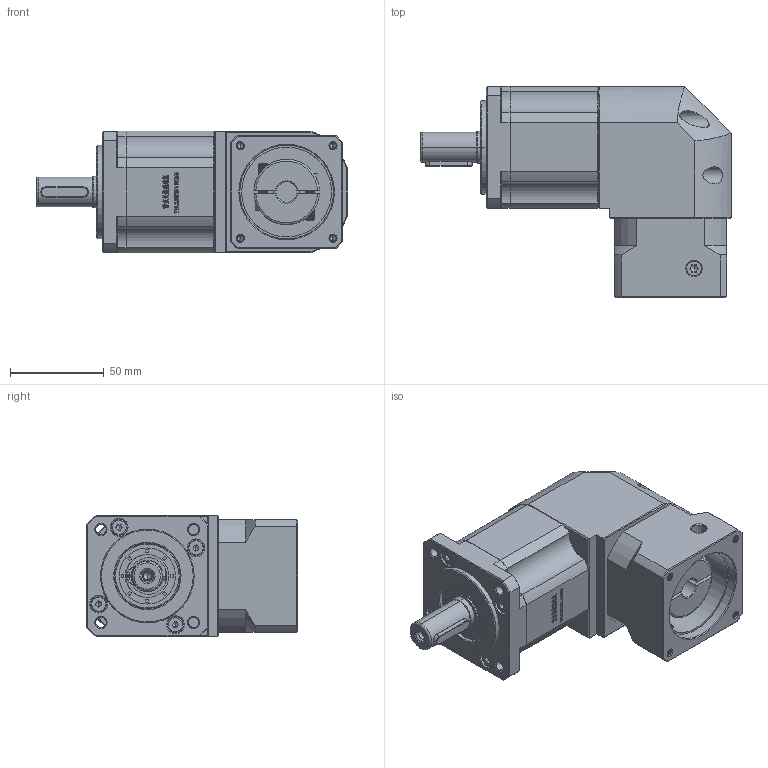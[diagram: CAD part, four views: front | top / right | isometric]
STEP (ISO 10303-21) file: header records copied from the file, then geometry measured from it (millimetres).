
FILE_DESCRIPTION (( 'STEP AP214' ), '1' );
FILE_NAME ('ZBR60-D16-L2-11-50-70-M4.STEP', '2022-04-19T08:25:36', ( '' ), ( 'Microsoft' ), 'SwSTEP 2.0', 'SolidWorks 2016', '' );
FILE_SCHEMA (( 'AUTOMOTIVE_DESIGN' ));
Length unit declared in the file: millimetre
Products named in the file (1): ZBR60-D16-L2-11-50-70-M4
Bounding box: 166 x 112.7 x 65 mm (x, y, z)
Volume: 588141.7 mm3; surface area: 81619 mm2
Topology: 5 solids, 5 shells, 2835 faces, 7689 edges, 4990 vertices
Faces by surface type: plane 1472, bspline 579, cylinder 424, cone 328, torus 32
Entity records: 152759 total; most frequent: CARTESIAN_POINT 54429, ORIENTED_EDGE 15318, DIRECTION 11687, EDGE_CURVE 7659, LINE 5039, VECTOR 5039, VERTEX_POINT 4990, AXIS2_PLACEMENT_3D 3324
